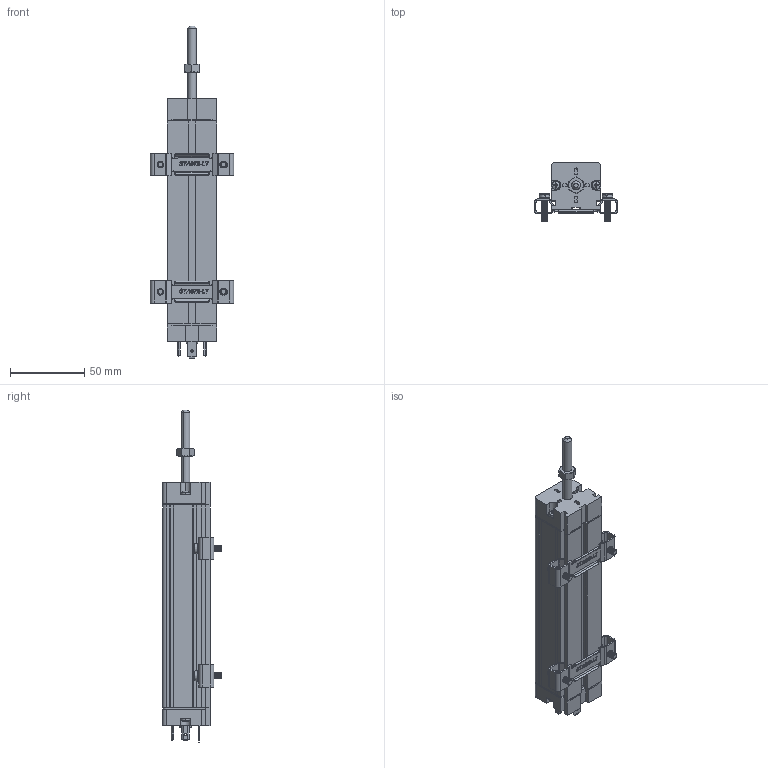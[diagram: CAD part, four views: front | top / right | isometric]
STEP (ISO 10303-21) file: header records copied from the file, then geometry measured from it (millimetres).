
FILE_DESCRIPTION (( 'STEP AP203' ), '1' );
FILE_NAME ('LT-M-0100-S.STEP', '2016-05-31T14:10:30', ( '' ), ( '' ), 'SwSTEP 2.0', 'SolidWorks 2015', '' );
FILE_SCHEMA (( 'CONFIG_CONTROL_DESIGN' ));
Length unit declared in the file: millimetre
Products named in the file (14): MIM510X_DIN 6905-3.6-FSt; TES036x; MIM862X_MIM862; INS011X; LT-M-0100-S; CTT010X; CTT007X; Albero; MIM203X_MIM203; Custodia; STA072X; TES034x; MIM895X_ISO 1207 - M4 x 16 --- 16S; Guarnizione
Assembly tree (26 placements, depth 2):
  LT-M-0100-S
    Custodia
    TES034x
    Guarnizione  x2
    TES036x
    INS011X
    CTT010X  x3
    CTT007X
    Albero
    MIM203X_MIM203
    STA072X  x2
    MIM895X_ISO 1207 - M4 x 16 --- 16S  x4
    MIM510X_DIN 6905-3.6-FSt  x4
    MIM862X_MIM862  x4
Bounding box: 56 x 39.7 x 223.43 mm (x, y, z)
Volume: 168198.1 mm3; surface area: 52292.7 mm2
Topology: 26 solids, 26 shells, 2340 faces, 6002 edges, 3748 vertices
Faces by surface type: cone 814, plane 763, cylinder 601, bspline 110, torus 44, sphere 8
Entity records: 34392 total; most frequent: CARTESIAN_POINT 8078, DIRECTION 5177, ORIENTED_EDGE 5092, EDGE_CURVE 2546, AXIS2_PLACEMENT_3D 1831, VERTEX_POINT 1598, LINE 1515, VECTOR 1515
